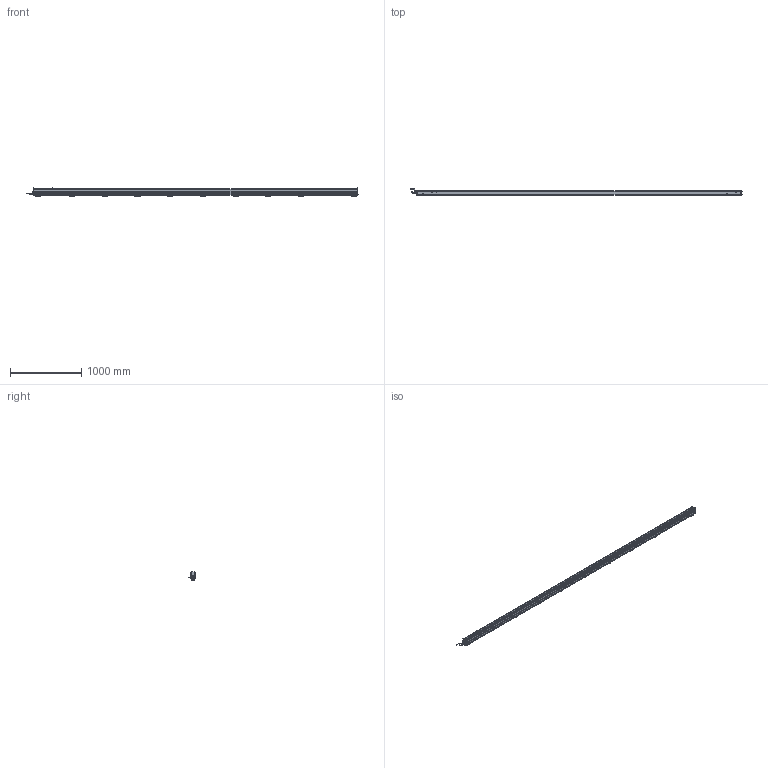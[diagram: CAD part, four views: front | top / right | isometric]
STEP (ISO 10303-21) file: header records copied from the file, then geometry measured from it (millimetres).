
FILE_DESCRIPTION(/* description */ (''),/* implementation_level */ '2;1');
FILE_NAME(/* name */ 'THUNDERION2_3D_4375-4570',/* time_stamp */ '2017-09-28T12:46:34+02:00',/* author */ (''),/* organization */ (''),/* preprocessor_version */ 'ST-DEVELOPER v15.7',/* originating_system */ 'HiCAD 2015 2002.1 Build 408',/* authorisation */ '');
FILE_SCHEMA (('AUTOMOTIVE_DESIGN { 1 0 10303 214 1 1 1 1 }'));
Products named in the file (154): Root; -_ThunderION 4375/4570; -_Side profile; -_Bar; -_Connector straight; EXTRUDED SOLID_0; -_Cord; REVOLVED SOLID_1; REVOLVED SOLID_3; DIN 13-M12x1,5; -_Connector angled; REVOLVED SOLID_2; 4532000100_Mounting bracket bars; -_Side piece; -_Slide piece; -_Bracket small; DIN 13-M3; DIN 76-M3; -_Cable End; light pipe M; light pipe L; -_Cap CE; -_Stud M4; -_Connector M12 male 5 pole_1; -_Contacts; ABSR_1_2_1_1_Inner part; ABSR_1_2_1_2_Inner part; bus; Pg 9; -_Ring tongue terminal; 9230000020_Nut M4; GEWINDE; 9240100020_Spring washer M4; ISO 7051-ST3.5x9.5-C-H_Tapping screws_0; -_Fill; -_Dead end; -_Cap DE; -_Emitter; -_Support Side Profile; -_End Plate
Assembly tree (153 placements, depth 6):
  Root
    -_ThunderION 4375/4570
      -_Side profile
      -_Side profile
      -_Bar
      -_Connector straight
        EXTRUDED SOLID_0
        -_Cord
        REVOLVED SOLID_1
        REVOLVED SOLID_3
          DIN 13-M12x1,5
      -_Connector angled
        REVOLVED SOLID_1
        EXTRUDED SOLID_0
        -_Cord
        REVOLVED SOLID_2
        REVOLVED SOLID_3
          DIN 13-M12x1,5
      4532000100_Mounting bracket bars
        -_Side piece
        -_Side piece
        -_Slide piece
        -_Bracket small
          DIN 13-M3
          DIN 13-M3
          DIN 76-M3
          DIN 76-M3
      4532000100_Mounting bracket bars
        -_Side piece
        -_Side piece
        -_Slide piece
        -_Bracket small
          DIN 13-M3
          DIN 13-M3
          DIN 76-M3
          DIN 76-M3
      4532000100_Mounting bracket bars
        -_Side piece
        -_Side piece
        -_Slide piece
        -_Bracket small
          DIN 13-M3
          DIN 13-M3
          DIN 76-M3
          DIN 76-M3
      4532000100_Mounting bracket bars
        -_Side piece
        -_Side piece
        -_Slide piece
        -_Bracket small
          DIN 13-M3
          DIN 13-M3
          DIN 76-M3
          DIN 76-M3
      4532000100_Mounting bracket bars
        -_Side piece
        -_Side piece
        -_Slide piece
        -_Bracket small
          DIN 13-M3
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Bounding box: 4648.34 x 92.21 x 113 mm (x, y, z)
Volume: 14428208.6 mm3; surface area: 3290211.1 mm2
Topology: 141 solids, 171 shells, 8077 faces, 20543 edges, 12341 vertices
Faces by surface type: cylinder 3338, plane 3245, torus 456, bspline 440, sphere 409, cone 189
Full cylindrical faces by diameter (mm): 0.8 x10, 1 x10, 2.387 x40, 2.5 x1, 2.64 x16, 3 x80, 3.141 x2, 3.5 x8, 4 x26, 4.2 x3, 4.4 x1, 5 x4, 5.5 x50, 7.3 x8, 8 x2, 8.4 x2, 9 x6, 9.6 x1, 10 x2, 10.16 x1, 10.5 x2, 11 x4, 12 x5, 12.8 x1, 13.8 x4, 13.86 x1, 14.5 x3, 15.199 x1, 15.2 x1
Entity records: 465061 total; most frequent: CARTESIAN_POINT 119732, DIRECTION 40037, PRESENTATION_STYLE_ASSIGNMENT 38985, OVER_RIDING_STYLED_ITEM 38848, DRAUGHTING_PRE_DEFINED_CURVE_FONT 38786, CURVE_STYLE 38786, ORIENTED_EDGE 38786, EDGE_CURVE 19393
